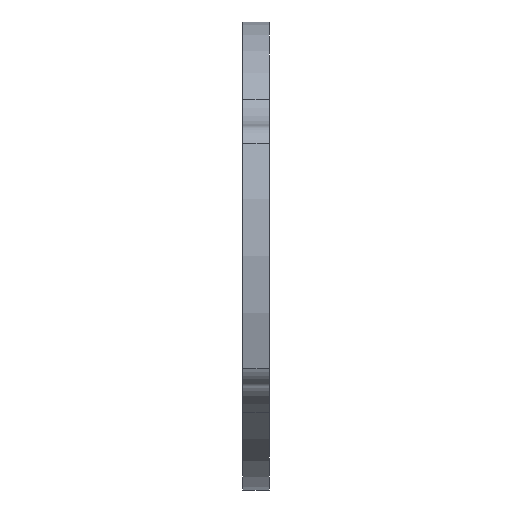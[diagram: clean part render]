
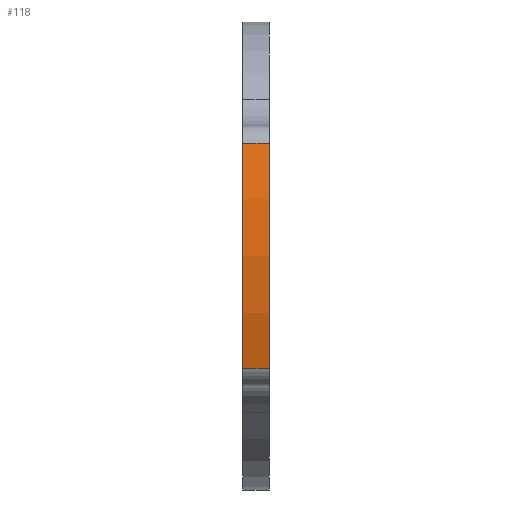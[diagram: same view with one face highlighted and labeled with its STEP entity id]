
A CAD part, left-side view. The second image highlights one B-rep face of the part: STEP entity #118.
In plain terms, the highlighted cylindrical face has radius 69.74 mm (diameter 139.48 mm), a partial arc.
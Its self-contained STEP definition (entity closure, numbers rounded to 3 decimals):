
#10 = DIRECTION ( 'NONE',  ( 0., 1., 0. ) ) ;
#51 = CARTESIAN_POINT ( 'NONE',  ( -66.329, 64.709, -21.545 ) ) ;
#95 = EDGE_LOOP ( 'NONE', ( #139, #894, #1411, #806 ) ) ;
#118 = ADVANCED_FACE ( 'NONE', ( #1192 ), #888, .T. ) ;
#139 = ORIENTED_EDGE ( 'NONE', *, *, #905, .T. ) ;
#171 = CIRCLE ( 'NONE', #674, 69.74 ) ;
#198 = CARTESIAN_POINT ( 'NONE',  ( -66.329, 5., -21.545 ) ) ;
#213 = DIRECTION ( 'NONE',  ( 0., 0., 1. ) ) ;
#228 = VECTOR ( 'NONE', #10, 1000. ) ;
#234 = CARTESIAN_POINT ( 'NONE',  ( -66.329, 64.709, 21.545 ) ) ;
#264 = DIRECTION ( 'NONE',  ( 0., 0., -1. ) ) ;
#370 = LINE ( 'NONE', #51, #395 ) ;
#381 = CARTESIAN_POINT ( 'NONE',  ( -66.329, 0., -21.545 ) ) ;
#395 = VECTOR ( 'NONE', #614, 1000. ) ;
#426 = VERTEX_POINT ( 'NONE', #198 ) ;
#505 = VERTEX_POINT ( 'NONE', #621 ) ;
#540 = CARTESIAN_POINT ( 'NONE',  ( 0., 0., 0. ) ) ;
#586 = CIRCLE ( 'NONE', #769, 69.74 ) ;
#614 = DIRECTION ( 'NONE',  ( 0., -1., 0. ) ) ;
#621 = CARTESIAN_POINT ( 'NONE',  ( -66.329, 0., 21.545 ) ) ;
#635 = CARTESIAN_POINT ( 'NONE',  ( 0., 64.709, 0. ) ) ;
#663 = DIRECTION ( 'NONE',  ( 0., -1., 0. ) ) ;
#674 = AXIS2_PLACEMENT_3D ( 'NONE', #540, #663, #1359 ) ;
#767 = VERTEX_POINT ( 'NONE', #1240 ) ;
#769 = AXIS2_PLACEMENT_3D ( 'NONE', #1037, #1148, #213 ) ;
#806 = ORIENTED_EDGE ( 'NONE', *, *, #1341, .T. ) ;
#859 = LINE ( 'NONE', #234, #228 ) ;
#888 = CYLINDRICAL_SURFACE ( 'NONE', #1131, 69.74 ) ;
#894 = ORIENTED_EDGE ( 'NONE', *, *, #1412, .T. ) ;
#905 = EDGE_CURVE ( 'NONE', #767, #426, #586, .T. ) ;
#1037 = CARTESIAN_POINT ( 'NONE',  ( 0., 5., 0. ) ) ;
#1100 = DIRECTION ( 'NONE',  ( 0., -1., 0. ) ) ;
#1131 = AXIS2_PLACEMENT_3D ( 'NONE', #635, #1100, #264 ) ;
#1148 = DIRECTION ( 'NONE',  ( 0., -1., 0. ) ) ;
#1192 = FACE_OUTER_BOUND ( 'NONE', #95, .T. ) ;
#1240 = CARTESIAN_POINT ( 'NONE',  ( -66.329, 5., 21.545 ) ) ;
#1265 = EDGE_CURVE ( 'NONE', #505, #1490, #171, .T. ) ;
#1341 = EDGE_CURVE ( 'NONE', #505, #767, #859, .T. ) ;
#1359 = DIRECTION ( 'NONE',  ( 0., 0., 1. ) ) ;
#1411 = ORIENTED_EDGE ( 'NONE', *, *, #1265, .F. ) ;
#1412 = EDGE_CURVE ( 'NONE', #426, #1490, #370, .T. ) ;
#1490 = VERTEX_POINT ( 'NONE', #381 ) ;
